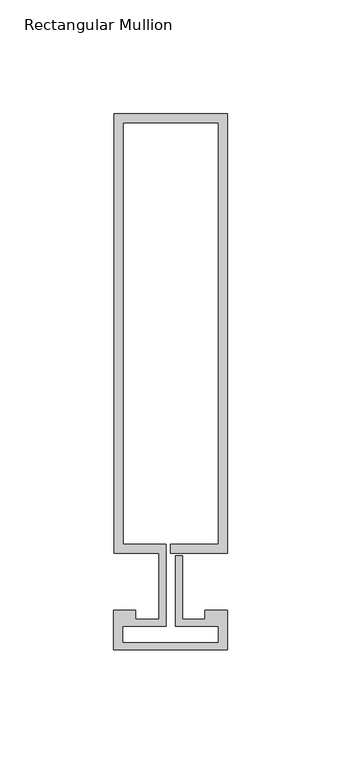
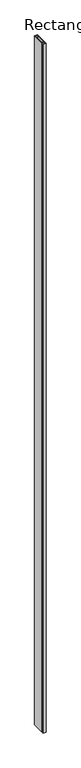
"""IFC4 building model written with IfcOpenShell, lengths in millimetres: member geometry, Rectangular Mullion : Reynaers_CW-50_Mullion-Transom_Horizontal_193.4mm_Facecap-02B."""

import ifcopenshell
import ifcopenshell.guid

model = None  # the IFC model being written
_history = None  # IfcOwnerHistory: only IFC2X3 demands one
_inside = {}  # id of a spatial element -> (the spatial element, [elements in it])
_under = {}  # id of a project, library or spatial element -> (it, [spatial elements below it])
_declared = {}  # id of a project -> (the project, [libraries it declares])
_typed = {}  # id of a type object -> (the type object, [elements of that type])
_made_of = {}  # id of a material, layer set ... -> (it, [elements and type objects made of it])


def new_model(schema):
    """Start an empty IFC model of exactly this schema.

    Asked for "IFC4X3", IfcOpenShell would pick the latest addendum, in which some entities
    have other attributes; the version numbers below select the first issue.
    IFC2X3 requires an IfcOwnerHistory on every rooted entity: one is made here for all.
    """
    global model, _history
    if schema == "IFC4X3":
        model = ifcopenshell.file(schema_version=(4, 3, 0, 0))
    else:
        model = ifcopenshell.file(schema=schema)
    _inside.clear()
    _under.clear()
    _declared.clear()
    _typed.clear()
    _made_of.clear()
    _history = None
    if model.schema == "IFC2X3":
        org = make("IfcOrganization", Name="unknown")
        user = make(
            "IfcPersonAndOrganization",
            ThePerson=make("IfcPerson", FamilyName="unknown"),
            TheOrganization=org,
        )
        app = make(
            "IfcApplication",
            ApplicationDeveloper=org,
            Version="unknown",
            ApplicationFullName="unknown",
            ApplicationIdentifier="unknown",
        )
        _history = make(
            "IfcOwnerHistory",
            OwningUser=user,
            OwningApplication=app,
            ChangeAction="ADDED",
            CreationDate=0,
        )
    return model


def make(cls, **values):
    """One entity of the class cls with the attributes given. An attribute that is None is left unset."""
    return model.create_entity(
        cls, **{name: value for name, value in values.items() if value is not None}
    )


def rooted(cls, **values):
    """An entity with a GlobalId (a new one), such as an element, a storey or a relation."""
    return make(cls, GlobalId=ifcopenshell.guid.new(), OwnerHistory=_history, **values)


def si_unit(unit_type, name, prefix=None):
    """IfcSIUnit, for example si_unit("LENGTHUNIT", "METRE", prefix="MILLI")."""
    return make("IfcSIUnit", UnitType=unit_type, Prefix=prefix, Name=name)


def assignment(units):
    """IfcUnitAssignment: the units of a project."""
    return None if units is None else make("IfcUnitAssignment", Units=units)


def point(xyz):
    """IfcCartesianPoint."""
    return None if xyz is None else make("IfcCartesianPoint", Coordinates=xyz)


def direction(xyz):
    """IfcDirection."""
    return None if xyz is None else make("IfcDirection", DirectionRatios=xyz)


def frame(location, z_axis=None, x_axis=None):
    """IfcAxis2Placement3D, a coordinate frame: its origin and axes. An axis left out is left unset."""
    return make(
        "IfcAxis2Placement3D",
        Location=point(location),
        Axis=direction(z_axis),
        RefDirection=direction(x_axis),
    )


def origin():
    """The frame at (0, 0, 0) with its axes left unset."""
    return frame((0.0, 0.0, 0.0))


def place(relative_to, where):
    """IfcLocalPlacement: puts the frame where relative to a parent placement (None: the world)."""
    return make(
        "IfcLocalPlacement", PlacementRelTo=relative_to, RelativePlacement=where
    )


def context(
    kind, dimensions, precision=None, world=None, true_north=None, identifier=None
):
    """IfcGeometricRepresentationContext, for example the 3D "Model" context."""
    return make(
        "IfcGeometricRepresentationContext",
        ContextIdentifier=identifier,
        ContextType=kind,
        CoordinateSpaceDimension=dimensions,
        Precision=precision,
        WorldCoordinateSystem=world,
        TrueNorth=true_north,
    )


def project(units=None, contexts=None):
    """IfcProject with its units and contexts."""
    return rooted(
        "IfcProject",
        Name="project",
        RepresentationContexts=contexts,
        UnitsInContext=assignment(units),
    )


def spatial(cls, under=None, at=None, **own):
    """A site, building, storey or space (cls), placed at a placement, below another one or the project."""
    s = rooted(cls, ObjectPlacement=at, **own)
    if under is not None:
        _under.setdefault(under.id(), (under, []))[1].append(s)
    return s


def polyline(points):
    """IfcPolyline through the points."""
    return make("IfcPolyline", Points=[point(p) for p in points])


def outline(outer, holes=None, kind="AREA"):
    """IfcArbitraryClosedProfileDef: a profile drawn as a closed curve; with holes, ...WithVoids."""
    if holes is None:
        return make("IfcArbitraryClosedProfileDef", ProfileType=kind, OuterCurve=outer)
    return make(
        "IfcArbitraryProfileDefWithVoids",
        ProfileType=kind,
        OuterCurve=outer,
        InnerCurves=holes,
    )


def extrude(swept, where, along, depth):
    """IfcExtrudedAreaSolid: the profile swept, set in the frame where, extruded along a direction by depth."""
    return make(
        "IfcExtrudedAreaSolid",
        SweptArea=swept,
        Position=where,
        ExtrudedDirection=direction(along),
        Depth=depth,
    )


def shape(context_of_items, identifier, shape_type, items):
    """IfcShapeRepresentation: the items that make up one representation, for example the "Body"."""
    return make(
        "IfcShapeRepresentation",
        ContextOfItems=context_of_items,
        RepresentationIdentifier=identifier,
        RepresentationType=shape_type,
        Items=items,
    )


def source(mapping_origin, context_of_items, identifier, shape_type, items):
    """IfcRepresentationMap: a shape defined once, which mapped items show again and again."""
    return make(
        "IfcRepresentationMap",
        MappingOrigin=mapping_origin,
        MappedRepresentation=shape(context_of_items, identifier, shape_type, items),
    )


def transform(
    local_origin,
    x_axis=None,
    y_axis=None,
    z_axis=None,
    scale=None,
    scale2=None,
    scale3=None,
    uniform=True,
):
    """IfcCartesianTransformationOperator3D, or its non-uniform kind. x_axis, y_axis, z_axis: its Axis1, 2, 3."""
    if uniform:
        return make(
            "IfcCartesianTransformationOperator3D",
            Axis1=direction(x_axis),
            Axis2=direction(y_axis),
            LocalOrigin=point(local_origin),
            Scale=scale,
            Axis3=direction(z_axis),
        )
    return make(
        "IfcCartesianTransformationOperator3DnonUniform",
        Axis1=direction(x_axis),
        Axis2=direction(y_axis),
        LocalOrigin=point(local_origin),
        Scale=scale,
        Axis3=direction(z_axis),
        Scale2=scale2,
        Scale3=scale3,
    )


def mapped(mapping_source, mapping_target):
    """IfcMappedItem: shows the shape of a source again, moved by a transform."""
    return make(
        "IfcMappedItem", MappingSource=mapping_source, MappingTarget=mapping_target
    )


def made_of(thing, what):
    """Note that an element or type object is made of a material, layer set ...; save() writes the relation."""
    if what is not None:
        _made_of.setdefault(what.id(), (what, []))[1].append(thing)
    return thing


def element(
    cls,
    number,
    at=None,
    inside=None,
    cuts=None,
    type_object=None,
    material=None,
    context=None,
    identifier="Body",
    shape_type=None,
    held_by="IfcProductDefinitionShape",
    body=None,
    shapes=None,
    **own,
):
    """One element of the class cls, such as IfcWall. Its Tag is "e" and its number.

    at: its placement. inside: the storey or other place that contains it. cuts: it is an
    opening in that element (IfcRelVoidsElement). A single representation is given by context,
    identifier, shape_type and body (its items); several are given by shapes. held_by: the class
    of the entity that holds the representations. save() writes the other relations.
    """
    e = rooted(cls, Tag="e%d" % number, ObjectPlacement=at, **own)
    if body is not None:
        shapes = [shape(context, identifier, shape_type, body)]
    if shapes is not None:
        e.Representation = make(held_by, Representations=shapes)
    if inside is not None:
        _inside.setdefault(inside.id(), (inside, []))[1].append(e)
    if cuts is not None:
        rooted(
            "IfcRelVoidsElement", RelatingBuildingElement=cuts, RelatedOpeningElement=e
        )
    if type_object is not None:
        _typed.setdefault(type_object.id(), (type_object, []))[1].append(e)
    return made_of(e, material)


def aggregate(whole, parts):
    """IfcRelAggregates: a whole, such as a stair, and the parts it consists of."""
    return rooted("IfcRelAggregates", RelatingObject=whole, RelatedObjects=parts)


def save(model, path):
    """Write the relations noted so far, then the file.

    IfcRelAggregates (storeys below a building ...), IfcRelContainedInSpatialStructure (elements
    in a storey), IfcRelDefinesByType, IfcRelAssociatesMaterial and IfcRelDeclares: one each for
    every whole, place, type object, material and project.
    """
    for whole, parts in _under.values():
        aggregate(whole, parts)
    for where, things in _inside.values():
        rooted(
            "IfcRelContainedInSpatialStructure",
            RelatedElements=things,
            RelatingStructure=where,
        )
    for kind, things in _typed.values():
        rooted("IfcRelDefinesByType", RelatedObjects=things, RelatingType=kind)
    for what, things in _made_of.values():
        rooted("IfcRelAssociatesMaterial", RelatedObjects=things, RelatingMaterial=what)
    for by, libraries in _declared.values():
        rooted("IfcRelDeclares", RelatingContext=by, RelatedDefinitions=libraries)
    model.write(path)


def rectangular_mullion_de1e265b(model_context):
    return source(origin(), model_context, "Body", "SweptSolid", [
        extrude(outline(polyline([(-24.8004059, 205.9), (25.1995941, 205.9), (25.1995941, 12.5), (0.0, 12.5), (0.0, 16.5), (21.1995941, 16.5), (21.1995941, 201.9), (-20.8004059, 201.9), (-20.8004059, 16.5), (-1.9004059, 16.5), (-1.9004059, -19.5), (-20.994845, -19.5), (-20.994845, -26.7191338), (21.1995941, -26.7191338), (21.1995941, -19.5), (2.2995941, -19.5), (2.2995941, 11.5), (5.2995941, 11.5), (5.2995941, -16.5), (15.2996495, -16.5), (15.2996495, -12.5), (25.1995941, -12.5), (25.1995941, -29.8), (-24.994845, -29.8), (-24.994845, -12.5), (-15.2996495, -12.5), (-15.2996495, -16.5), (-4.9004059, -16.5), (-4.9004059, 12.5), (-24.8004059, 12.5), (-24.8004059, 205.9)])), frame((0.0, 0.0, -12000.0), z_axis=(0.0, 0.0, 1.0), x_axis=(1.0, 0.0, 0.0)), (0.0, 0.0, 1.0), 12000.0),
    ])


if __name__ == "__main__":
    model = new_model("IFC4")
    model_context = context("Model", 3, world=origin())
    ifc_project = project(units=[si_unit("LENGTHUNIT", "METRE", prefix="MILLI")], contexts=[model_context])
    site = spatial("IfcSite", under=ifc_project)
    building = spatial("IfcBuilding", under=site)
    placement = place(None, origin())
    rectangular_mullion_shape = rectangular_mullion_de1e265b(model_context)
    element("IfcMember", 1, ObjectType="Rectangular Mullion : Reynaers_CW-50_Mullion-Transom_Horizontal_193.4mm_Facecap-02B", at=placement, inside=building, context=model_context, shape_type="MappedRepresentation", body=[
        mapped(rectangular_mullion_shape, transform((0.0, 0.0, 0.0), x_axis=(1.0, 0.0, 0.0), y_axis=(0.0, 1.0, 0.0), z_axis=(0.0, 0.0, 1.0))),
    ])
    save(model, "model.ifc")
